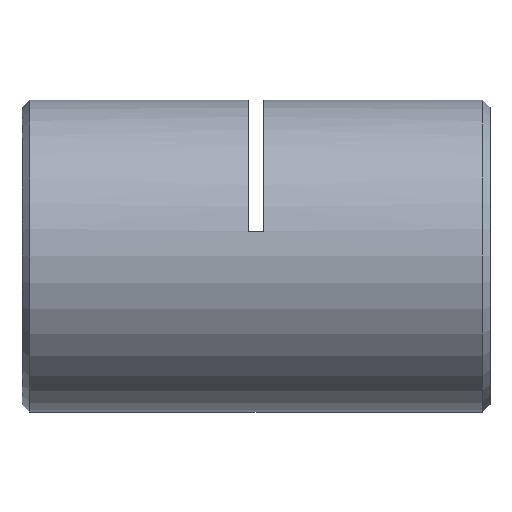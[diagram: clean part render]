
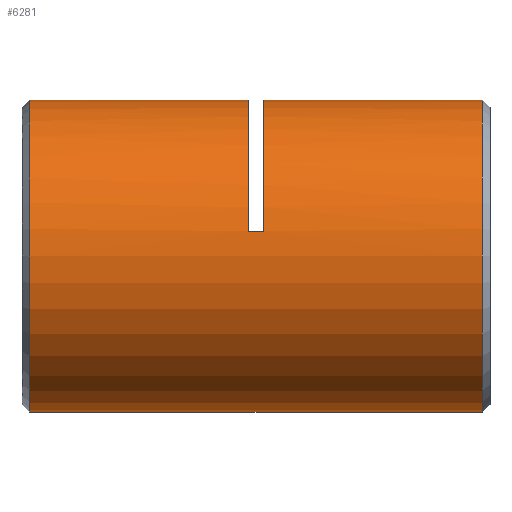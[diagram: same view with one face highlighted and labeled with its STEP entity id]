
A CAD part, left-side view. The second image highlights one B-rep face of the part: STEP entity #6281.
In plain terms, the highlighted cylindrical face has radius 8 mm (diameter 16 mm), a partial arc.
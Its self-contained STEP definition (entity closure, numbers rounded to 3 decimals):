
#85 = VERTEX_POINT ( 'NONE', #6429 ) ;
#122 = CARTESIAN_POINT ( 'NONE',  ( 0., 23.85, 0. ) ) ;
#277 = LINE ( 'NONE', #5186, #4245 ) ;
#357 = AXIS2_PLACEMENT_3D ( 'NONE', #475, #4228, #5841 ) ;
#475 = CARTESIAN_POINT ( 'NONE',  ( 0., 12.65, 0. ) ) ;
#486 = EDGE_LOOP ( 'NONE', ( #1478, #6698, #6501, #3517, #5679, #4811, #2457, #1466 ) ) ;
#639 = CARTESIAN_POINT ( 'NONE',  ( -7.897, 12.25, 1.28 ) ) ;
#773 = CIRCLE ( 'NONE', #2662, 8. ) ;
#833 = FACE_OUTER_BOUND ( 'NONE', #486, .T. ) ;
#1219 = VERTEX_POINT ( 'NONE', #2041 ) ;
#1355 = EDGE_CURVE ( 'NONE', #2951, #4569, #2819, .T. ) ;
#1362 = VECTOR ( 'NONE', #1550, 1000. ) ;
#1466 = ORIENTED_EDGE ( 'NONE', *, *, #4695, .T. ) ;
#1478 = ORIENTED_EDGE ( 'NONE', *, *, #1355, .F. ) ;
#1488 = CARTESIAN_POINT ( 'NONE',  ( 0., 0.65, -8. ) ) ;
#1550 = DIRECTION ( 'NONE',  ( 0., 1., 0. ) ) ;
#1600 = LINE ( 'NONE', #639, #4753 ) ;
#1803 = EDGE_CURVE ( 'NONE', #5379, #3333, #3295, .T. ) ;
#2041 = CARTESIAN_POINT ( 'NONE',  ( -7.897, 12.65, 1.28 ) ) ;
#2048 = CARTESIAN_POINT ( 'NONE',  ( 0., 0.25, 8. ) ) ;
#2180 = EDGE_CURVE ( 'NONE', #2701, #85, #5814, .T. ) ;
#2275 = DIRECTION ( 'NONE',  ( 0., -1., 0. ) ) ;
#2298 = EDGE_CURVE ( 'NONE', #1219, #2701, #4833, .T. ) ;
#2452 = VERTEX_POINT ( 'NONE', #5965 ) ;
#2457 = ORIENTED_EDGE ( 'NONE', *, *, #2180, .T. ) ;
#2577 = AXIS2_PLACEMENT_3D ( 'NONE', #5472, #6036, #2932 ) ;
#2662 = AXIS2_PLACEMENT_3D ( 'NONE', #122, #2275, #5890 ) ;
#2701 = VERTEX_POINT ( 'NONE', #4666 ) ;
#2702 = CARTESIAN_POINT ( 'NONE',  ( 0., 0.65, 0. ) ) ;
#2756 = CARTESIAN_POINT ( 'NONE',  ( 0., 11.85, 8. ) ) ;
#2819 = LINE ( 'NONE', #6401, #5078 ) ;
#2932 = DIRECTION ( 'NONE',  ( 0., 0., 1. ) ) ;
#2951 = VERTEX_POINT ( 'NONE', #1488 ) ;
#3103 = CYLINDRICAL_SURFACE ( 'NONE', #2577, 8. ) ;
#3192 = CARTESIAN_POINT ( 'NONE',  ( -7.897, 11.85, 1.28 ) ) ;
#3222 = DIRECTION ( 'NONE',  ( 0., 0., 1. ) ) ;
#3285 = DIRECTION ( 'NONE',  ( 0., 1., 0. ) ) ;
#3295 = CIRCLE ( 'NONE', #3895, 8. ) ;
#3333 = VERTEX_POINT ( 'NONE', #2756 ) ;
#3517 = ORIENTED_EDGE ( 'NONE', *, *, #1803, .F. ) ;
#3546 = DIRECTION ( 'NONE',  ( 0., 0., 1. ) ) ;
#3895 = AXIS2_PLACEMENT_3D ( 'NONE', #6152, #6680, #3546 ) ;
#4228 = DIRECTION ( 'NONE',  ( 0., 1., 0. ) ) ;
#4245 = VECTOR ( 'NONE', #5217, 1000. ) ;
#4569 = VERTEX_POINT ( 'NONE', #6307 ) ;
#4666 = CARTESIAN_POINT ( 'NONE',  ( 0., 12.65, 8. ) ) ;
#4686 = EDGE_CURVE ( 'NONE', #5379, #1219, #1600, .T. ) ;
#4695 = EDGE_CURVE ( 'NONE', #85, #4569, #773, .T. ) ;
#4753 = VECTOR ( 'NONE', #5382, 1000. ) ;
#4811 = ORIENTED_EDGE ( 'NONE', *, *, #2298, .T. ) ;
#4822 = DIRECTION ( 'NONE',  ( 0., 1., 0. ) ) ;
#4833 = CIRCLE ( 'NONE', #357, 8. ) ;
#4983 = EDGE_CURVE ( 'NONE', #2951, #2452, #5141, .T. ) ;
#5078 = VECTOR ( 'NONE', #4822, 1000. ) ;
#5141 = CIRCLE ( 'NONE', #6099, 8. ) ;
#5186 = CARTESIAN_POINT ( 'NONE',  ( 0., 0.25, 8. ) ) ;
#5217 = DIRECTION ( 'NONE',  ( 0., 1., 0. ) ) ;
#5379 = VERTEX_POINT ( 'NONE', #3192 ) ;
#5382 = DIRECTION ( 'NONE',  ( 0., 1., 0. ) ) ;
#5472 = CARTESIAN_POINT ( 'NONE',  ( 0., 0.25, 0. ) ) ;
#5679 = ORIENTED_EDGE ( 'NONE', *, *, #4686, .T. ) ;
#5814 = LINE ( 'NONE', #2048, #1362 ) ;
#5841 = DIRECTION ( 'NONE',  ( 0., 0., 1. ) ) ;
#5857 = EDGE_CURVE ( 'NONE', #2452, #3333, #277, .T. ) ;
#5890 = DIRECTION ( 'NONE',  ( 0., 0., -1. ) ) ;
#5965 = CARTESIAN_POINT ( 'NONE',  ( 0., 0.65, 8. ) ) ;
#6036 = DIRECTION ( 'NONE',  ( 0., 1., 0. ) ) ;
#6099 = AXIS2_PLACEMENT_3D ( 'NONE', #2702, #3285, #3222 ) ;
#6152 = CARTESIAN_POINT ( 'NONE',  ( 0., 11.85, 0. ) ) ;
#6281 = ADVANCED_FACE ( 'NONE', ( #833 ), #3103, .T. ) ;
#6307 = CARTESIAN_POINT ( 'NONE',  ( 0., 23.85, -8. ) ) ;
#6401 = CARTESIAN_POINT ( 'NONE',  ( 0., 0.25, -8. ) ) ;
#6429 = CARTESIAN_POINT ( 'NONE',  ( 0., 23.85, 8. ) ) ;
#6501 = ORIENTED_EDGE ( 'NONE', *, *, #5857, .T. ) ;
#6680 = DIRECTION ( 'NONE',  ( 0., 1., 0. ) ) ;
#6698 = ORIENTED_EDGE ( 'NONE', *, *, #4983, .T. ) ;
